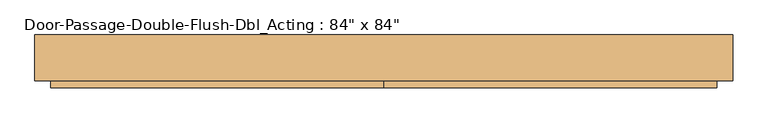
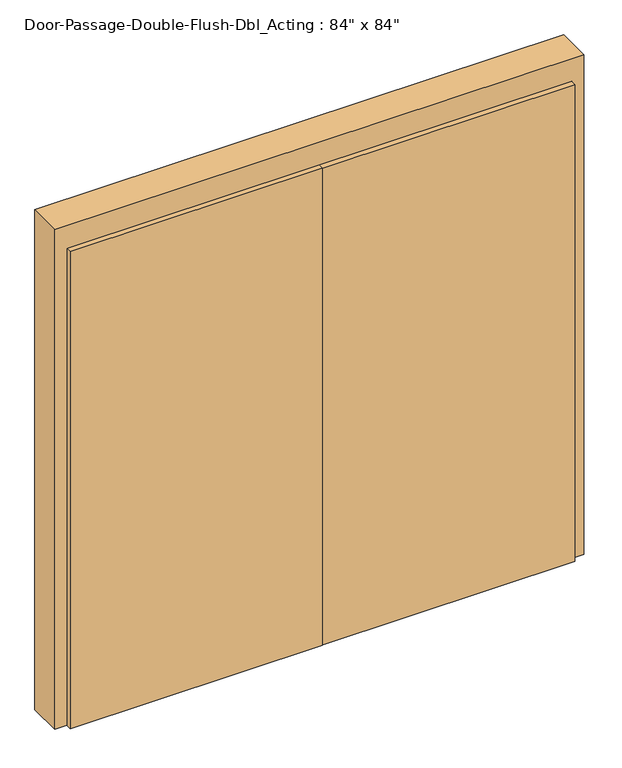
"""IFC4 building model written with IfcOpenShell, lengths in millimetres: door geometry."""

from ifc_helpers import new_model, si_unit, frame, origin, origin_with_axes, place, context, project, spatial, polyline, outline, extrude, source, transform, mapped, element, save


def door_0b13e4d9(model_context):
    return source(origin(), model_context, "Body", "SweptSolid", [
        extrude(outline(polyline([(-38.1, -11.1125), (-38.1, -14.2875), (-114.3, -14.2875), (-114.3, -11.1125), (-38.1, -11.1125)])), frame((0.0, 0.0, 838.2), z_axis=(0.0, 0.0, 1.0), x_axis=(1.0, 0.0, 0.0)), (0.0, 0.0, 1.0), 355.6),
        extrude(outline(polyline([(-38.1, -61.9125), (-114.3, -61.9125), (-114.3, -58.7375), (-38.1, -58.7375), (-38.1, -61.9125)])), frame((0.0, 0.0, 838.2), z_axis=(0.0, 0.0, 1.0), x_axis=(1.0, 0.0, 0.0)), (0.0, 0.0, 1.0), 355.6),
        extrude(outline(polyline([(38.1, -11.1125), (114.3, -11.1125), (114.3, -14.2875), (38.1, -14.2875), (38.1, -11.1125)])), frame((0.0, 0.0, 838.2), z_axis=(0.0, 0.0, 1.0), x_axis=(1.0, 0.0, 0.0)), (0.0, 0.0, 1.0), 355.6),
        extrude(outline(polyline([(38.1, -61.9125), (38.1, -58.7375), (114.3, -58.7375), (114.3, -61.9125), (38.1, -61.9125)])), frame((0.0, 0.0, 838.2), z_axis=(0.0, 0.0, 1.0), x_axis=(1.0, 0.0, 0.0)), (0.0, 0.0, 1.0), 355.6),
        extrude(outline(polyline([(0.0, 1117.6), (2235.2, 1117.6), (2235.2, -1117.6), (0.0, -1117.6), (0.0, -1066.8), (2133.6, -1066.8), (2133.6, 1066.8), (0.0, 1066.8), (0.0, 1117.6)])), frame((0.0, -58.7375, 0.0), z_axis=(0.0, 1.0, 0.0), x_axis=(0.0, 0.0, 1.0)), (0.0, 0.0, 1.0), 146.05),
        extrude(outline(polyline([(1066.8, -14.2875), (1066.8, -82.55), (1.5875, -82.55), (1.5875, -14.2875), (1066.8, -14.2875)])), origin_with_axes(), (0.0, 0.0, 1.0), 2133.6),
        extrude(outline(polyline([(-1.5875, -14.2875), (-1.5875, -82.55), (-1066.8, -82.55), (-1066.8, -14.2875), (-1.5875, -14.2875)])), origin_with_axes(), (0.0, 0.0, 1.0), 2133.6),
    ])


if __name__ == "__main__":
    model = new_model("IFC4")
    model_context = context("Model", 3, world=origin())
    ifc_project = project(units=[si_unit("LENGTHUNIT", "METRE", prefix="MILLI")], contexts=[model_context])
    site = spatial("IfcSite", under=ifc_project)
    building = spatial("IfcBuilding", under=site)
    placement = place(None, origin())
    door_shape = door_0b13e4d9(model_context)
    element("IfcDoor", 1, ObjectType="Door-Passage-Double-Flush-Dbl_Acting : 84\" x 84\"", at=placement, inside=building, context=model_context, shape_type="MappedRepresentation", body=[
        mapped(door_shape, transform((0.0, 0.0, 0.0), x_axis=(1.0, 0.0, 0.0), y_axis=(0.0, 1.0, 0.0), z_axis=(0.0, 0.0, 1.0))),
    ])
    save(model, "model.ifc")
